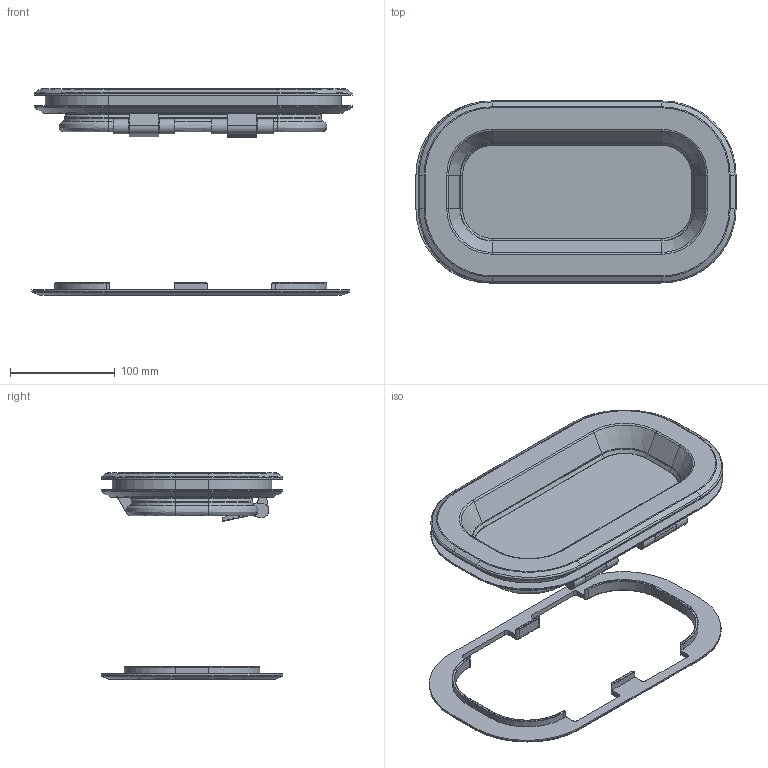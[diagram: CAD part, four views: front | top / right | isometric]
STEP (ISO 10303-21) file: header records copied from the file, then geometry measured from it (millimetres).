
FILE_DESCRIPTION((''),'2;1');
FILE_NAME('LEWMAR_PORTLIGHT_ATLANTIC_10_ASM','2008-02-29T',('skennedy'),(''),'PRO/ENGINEER BY PARAMETRIC TECHNOLOGY CORPORATION, 2007030','PRO/ENGINEER BY PARAMETRIC TECHNOLOGY CORPORATION, 2007030','');
FILE_SCHEMA(('CONFIG_CONTROL_DESIGN'));
Length unit declared in the file: millimetre
Products named in the file (7): 10_THIN_VALANCE; 10_ACRYLIC_FRAME; 10_OUTER_FRAME; ATLANTIC_PORTLIGHT_HANDLE; 10_THICK_VALANCE; 10_ACRYLIC; LEWMAR_PORTLIGHT_ATLANTIC_10_ASM
Assembly tree (7 placements, depth 2):
  LEWMAR_PORTLIGHT_ATLANTIC_10_ASM
    10_THIN_VALANCE
    10_ACRYLIC_FRAME
    10_OUTER_FRAME
    ATLANTIC_PORTLIGHT_HANDLE  x2
    10_THICK_VALANCE
    10_ACRYLIC
Bounding box: 306.13 x 174 x 197 mm (x, y, z)
Volume: 887579.9 mm3; surface area: 271615 mm2
Topology: 7 solids, 7 shells, 798 faces, 2043 edges, 1291 vertices
Faces by surface type: plane 412, cylinder 176, bspline 174, cone 36
Entity records: 28602 total; most frequent: CARTESIAN_POINT 10573, ORIENTED_EDGE 3894, DIRECTION 3390, EDGE_CURVE 1947, VECTOR 1254, LINE 1254, VERTEX_POINT 1227, AXIS2_PLACEMENT_3D 1068
